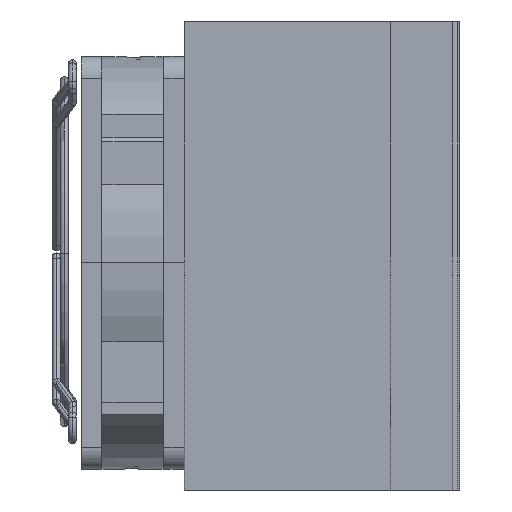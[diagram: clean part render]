
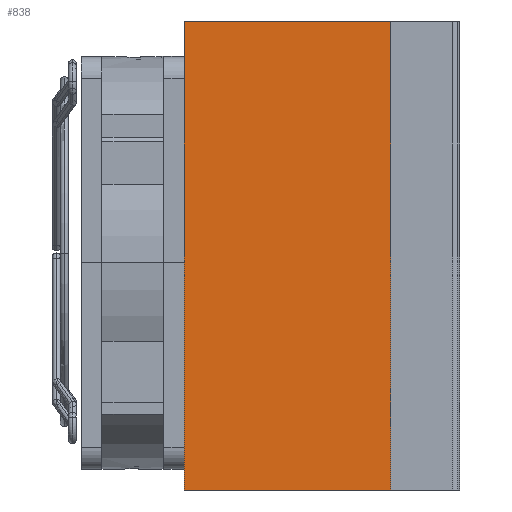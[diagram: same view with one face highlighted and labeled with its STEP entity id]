
A CAD part, left-side view. The second image highlights one B-rep face of the part: STEP entity #838.
In plain terms, the highlighted planar face has unit normal (-1, 0, 0).
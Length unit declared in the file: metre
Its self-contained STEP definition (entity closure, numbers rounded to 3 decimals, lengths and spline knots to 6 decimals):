
#838=ADVANCED_FACE('12:384',(#1916),#1917,.T.);
#1916=FACE_OUTER_BOUND('',#3351,.T.);
#1917=PLANE('',#3352);
#3351=EDGE_LOOP('',(#6900,#6901,#6902,#6903));
#3352=AXIS2_PLACEMENT_3D('',#6904,#6905,#6906);
#6900=ORIENTED_EDGE('',*,*,#10325,.T.);
#6901=ORIENTED_EDGE('',*,*,#9759,.T.);
#6902=ORIENTED_EDGE('',*,*,#9750,.F.);
#6903=ORIENTED_EDGE('',*,*,#10065,.F.);
#6904=CARTESIAN_POINT('',(0.033526,-0.001326,0.23));
#6905=DIRECTION('',(-1.0,0.0,0.0));
#6906=DIRECTION('',(0.0,1.0,0.0));
#9750=EDGE_CURVE('12:399',#11480,#11481,#11482,.T.);
#9759=EDGE_CURVE('12:44668',#11494,#11481,#11495,.F.);
#10065=EDGE_CURVE('12:402',#12102,#11480,#12104,.T.);
#10325=EDGE_CURVE('12:426',#12102,#11494,#12365,.T.);
#11480=VERTEX_POINT('',#14040);
#11481=VERTEX_POINT('',#14041);
#11482=LINE('',#14042,#14043);
#11494=VERTEX_POINT('',#14059);
#11495=LINE('',#14060,#14061);
#12102=VERTEX_POINT('',#14971);
#12104=LINE('',#14974,#14975);
#12365=LINE('',#15369,#15370);
#14040=CARTESIAN_POINT('',(0.033526,-0.015076,0.231));
#14041=CARTESIAN_POINT('',(0.033526,-0.015076,0.163));
#14042=CARTESIAN_POINT('',(0.033526,-0.015076,0.19));
#14043=VECTOR('',#20166,1.0);
#14059=CARTESIAN_POINT('',(0.033526,0.014924,0.163));
#14060=CARTESIAN_POINT('',(0.033526,-0.009451,0.163));
#14061=VECTOR('',#20180,1.0);
#14971=CARTESIAN_POINT('',(0.033526,0.014924,0.231));
#14974=CARTESIAN_POINT('',(0.033526,-0.000663,0.231));
#14975=VECTOR('',#20485,1.0);
#15369=CARTESIAN_POINT('',(0.033526,0.014924,0.23));
#15370=VECTOR('',#20628,1.0);
#20166=DIRECTION('',(-0.0,-0.0,-1.0));
#20180=DIRECTION('',(0.0,1.0,0.0));
#20485=DIRECTION('',(0.0,-1.0,0.0));
#20628=DIRECTION('',(0.0,0.0,-1.0));
